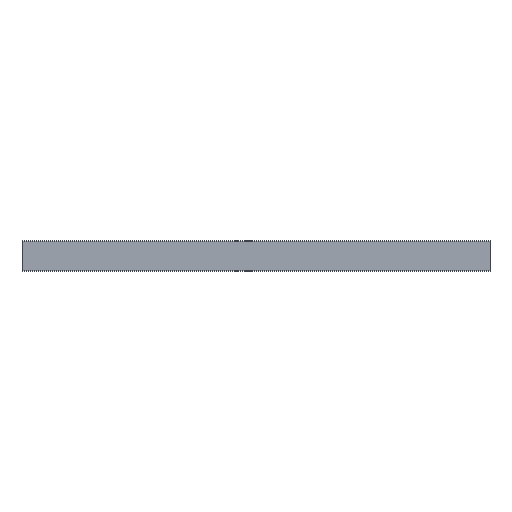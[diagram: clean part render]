
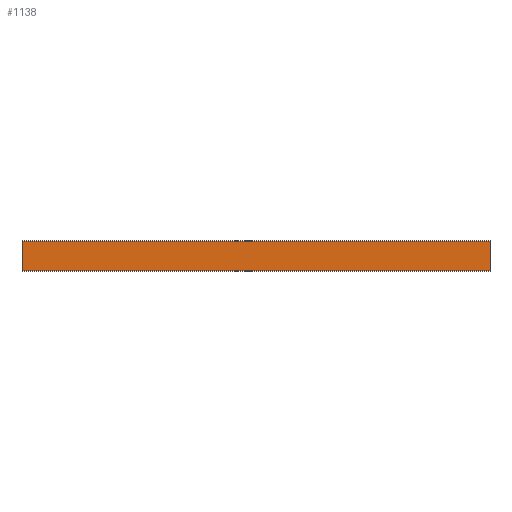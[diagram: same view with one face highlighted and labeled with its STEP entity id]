
A CAD part, top view. The second image highlights one B-rep face of the part: STEP entity #1138.
In plain terms, the highlighted planar face has unit normal (0, 0, 1).
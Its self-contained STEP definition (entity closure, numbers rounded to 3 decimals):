
#80=FACE_OUTER_BOUND('',#138,.T.);
#138=EDGE_LOOP('',(#989,#990,#991,#992));
#284=LINE('',#1778,#440);
#285=LINE('',#1781,#441);
#286=LINE('',#1783,#442);
#287=LINE('',#1784,#443);
#440=VECTOR('',#1460,10.);
#441=VECTOR('',#1463,10.);
#442=VECTOR('',#1464,10.);
#443=VECTOR('',#1465,10.);
#550=VERTEX_POINT('',#1772);
#552=VERTEX_POINT('',#1776);
#553=VERTEX_POINT('',#1780);
#554=VERTEX_POINT('',#1782);
#700=EDGE_CURVE('',#550,#552,#284,.T.);
#701=EDGE_CURVE('',#550,#553,#285,.T.);
#702=EDGE_CURVE('',#554,#552,#286,.T.);
#703=EDGE_CURVE('',#553,#554,#287,.T.);
#989=ORIENTED_EDGE('',*,*,#701,.F.);
#990=ORIENTED_EDGE('',*,*,#700,.T.);
#991=ORIENTED_EDGE('',*,*,#702,.F.);
#992=ORIENTED_EDGE('',*,*,#703,.F.);
#1080=PLANE('',#1218);
#1138=ADVANCED_FACE('',(#80),#1080,.T.);
#1218=AXIS2_PLACEMENT_3D('',#1779,#1461,#1462);
#1460=DIRECTION('',(1.,0.,0.));
#1461=DIRECTION('center_axis',(0.,0.,1.));
#1462=DIRECTION('ref_axis',(0.,-1.,0.));
#1463=DIRECTION('',(0.,1.,0.));
#1464=DIRECTION('',(0.,-1.,0.));
#1465=DIRECTION('',(1.,0.,0.));
#1772=CARTESIAN_POINT('',(0.,-31.5,36.5));
#1776=CARTESIAN_POINT('',(1000.,-31.5,36.5));
#1778=CARTESIAN_POINT('',(0.,-31.5,36.5));
#1779=CARTESIAN_POINT('Origin',(0.,31.5,36.5));
#1780=CARTESIAN_POINT('',(0.,31.5,36.5));
#1781=CARTESIAN_POINT('',(0.,-31.5,36.5));
#1782=CARTESIAN_POINT('',(1000.,31.5,36.5));
#1783=CARTESIAN_POINT('',(1000.,-31.5,36.5));
#1784=CARTESIAN_POINT('',(0.,31.5,36.5));
